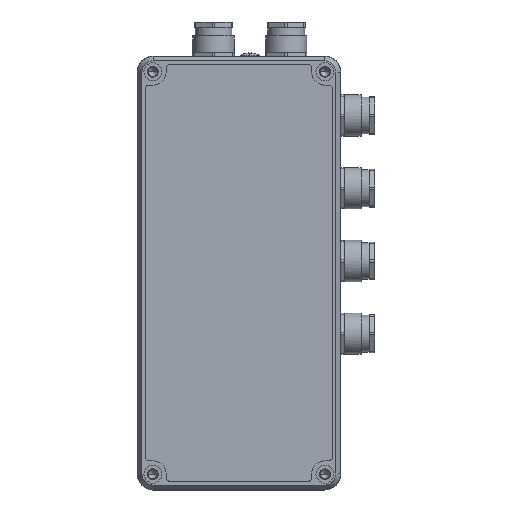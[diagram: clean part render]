
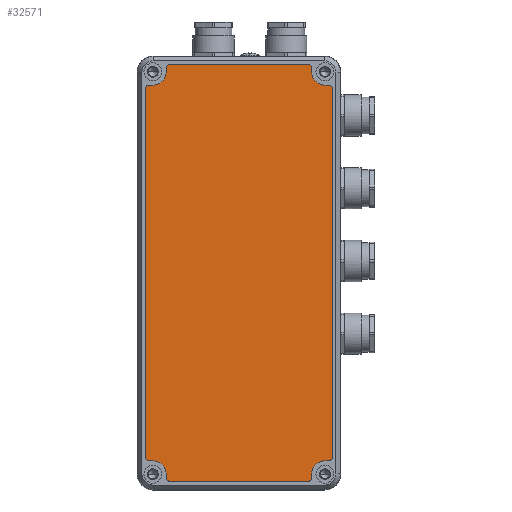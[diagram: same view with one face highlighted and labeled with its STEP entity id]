
A CAD part, top view. The second image highlights one B-rep face of the part: STEP entity #32571.
In plain terms, the highlighted free-form (B-spline) face has degree [1, 1] with [2, 2] control points.
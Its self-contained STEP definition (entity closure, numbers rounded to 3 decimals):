
#10126=DIRECTION('',(0.,1.,0.));
#10127=VECTOR('',#10126,152.);
#10128=CARTESIAN_POINT('',(-38.5,-76.,15.4));
#10129=LINE('',#10128,#10127);
#10130=CARTESIAN_POINT('',(-37.,76.,15.4));
#10131=DIRECTION('',(0.,0.,-1.));
#10132=DIRECTION('',(-1.,0.,0.));
#10133=AXIS2_PLACEMENT_3D('',#10130,#10131,#10132);
#10135=DIRECTION('',(1.,0.,0.));
#10136=VECTOR('',#10135,1.5);
#10137=CARTESIAN_POINT('',(-37.,77.5,15.4));
#10138=LINE('',#10137,#10136);
#10139=CARTESIAN_POINT('',(-35.5,83.,15.4));
#10140=DIRECTION('',(0.,0.,1.));
#10141=DIRECTION('',(0.,-1.,0.));
#10142=AXIS2_PLACEMENT_3D('',#10139,#10140,#10141);
#10144=DIRECTION('',(0.,1.,0.));
#10145=VECTOR('',#10144,1.5);
#10146=CARTESIAN_POINT('',(-30.,83.,15.4));
#10147=LINE('',#10146,#10145);
#10148=CARTESIAN_POINT('',(-28.5,84.5,15.4));
#10149=DIRECTION('',(0.,0.,-1.));
#10150=DIRECTION('',(-1.,0.,0.));
#10151=AXIS2_PLACEMENT_3D('',#10148,#10149,#10150);
#10153=DIRECTION('',(1.,0.,0.));
#10154=VECTOR('',#10153,57.);
#10155=CARTESIAN_POINT('',(-28.5,86.,15.4));
#10156=LINE('',#10155,#10154);
#10157=CARTESIAN_POINT('',(28.5,84.5,15.4));
#10158=DIRECTION('',(0.,0.,-1.));
#10159=DIRECTION('',(0.,1.,0.));
#10160=AXIS2_PLACEMENT_3D('',#10157,#10158,#10159);
#10162=DIRECTION('',(0.,-1.,0.));
#10163=VECTOR('',#10162,1.5);
#10164=CARTESIAN_POINT('',(30.,84.5,15.4));
#10165=LINE('',#10164,#10163);
#10166=CARTESIAN_POINT('',(35.5,83.,15.4));
#10167=DIRECTION('',(0.,0.,1.));
#10168=DIRECTION('',(-1.,0.,0.));
#10169=AXIS2_PLACEMENT_3D('',#10166,#10167,#10168);
#10171=DIRECTION('',(1.,0.,0.));
#10172=VECTOR('',#10171,1.5);
#10173=CARTESIAN_POINT('',(35.5,77.5,15.4));
#10174=LINE('',#10173,#10172);
#10175=CARTESIAN_POINT('',(37.,76.,15.4));
#10176=DIRECTION('',(0.,0.,-1.));
#10177=DIRECTION('',(0.,1.,0.));
#10178=AXIS2_PLACEMENT_3D('',#10175,#10176,#10177);
#10180=DIRECTION('',(0.,-1.,0.));
#10181=VECTOR('',#10180,152.);
#10182=CARTESIAN_POINT('',(38.5,76.,15.4));
#10183=LINE('',#10182,#10181);
#10184=CARTESIAN_POINT('',(37.,-76.,15.4));
#10185=DIRECTION('',(0.,0.,-1.));
#10186=DIRECTION('',(1.,0.,0.));
#10187=AXIS2_PLACEMENT_3D('',#10184,#10185,#10186);
#10189=DIRECTION('',(-1.,0.,0.));
#10190=VECTOR('',#10189,1.5);
#10191=CARTESIAN_POINT('',(37.,-77.5,15.4));
#10192=LINE('',#10191,#10190);
#10193=CARTESIAN_POINT('',(35.5,-83.,15.4));
#10194=DIRECTION('',(0.,0.,1.));
#10195=DIRECTION('',(0.,1.,0.));
#10196=AXIS2_PLACEMENT_3D('',#10193,#10194,#10195);
#10198=DIRECTION('',(0.,-1.,0.));
#10199=VECTOR('',#10198,1.5);
#10200=CARTESIAN_POINT('',(30.,-83.,15.4));
#10201=LINE('',#10200,#10199);
#10202=CARTESIAN_POINT('',(28.5,-84.5,15.4));
#10203=DIRECTION('',(0.,0.,-1.));
#10204=DIRECTION('',(1.,0.,0.));
#10205=AXIS2_PLACEMENT_3D('',#10202,#10203,#10204);
#10207=DIRECTION('',(-1.,0.,0.));
#10208=VECTOR('',#10207,57.);
#10209=CARTESIAN_POINT('',(28.5,-86.,15.4));
#10210=LINE('',#10209,#10208);
#10211=CARTESIAN_POINT('',(-28.5,-84.5,15.4));
#10212=DIRECTION('',(0.,0.,-1.));
#10213=DIRECTION('',(0.,-1.,0.));
#10214=AXIS2_PLACEMENT_3D('',#10211,#10212,#10213);
#10216=DIRECTION('',(0.,1.,0.));
#10217=VECTOR('',#10216,1.5);
#10218=CARTESIAN_POINT('',(-30.,-84.5,15.4));
#10219=LINE('',#10218,#10217);
#10220=CARTESIAN_POINT('',(-35.5,-83.,15.4));
#10221=DIRECTION('',(0.,0.,1.));
#10222=DIRECTION('',(1.,0.,0.));
#10223=AXIS2_PLACEMENT_3D('',#10220,#10221,#10222);
#10225=DIRECTION('',(-1.,0.,0.));
#10226=VECTOR('',#10225,1.5);
#10227=CARTESIAN_POINT('',(-35.5,-77.5,15.4));
#10228=LINE('',#10227,#10226);
#10229=CARTESIAN_POINT('',(-37.,-76.,15.4));
#10230=DIRECTION('',(0.,0.,-1.));
#10231=DIRECTION('',(0.,-1.,0.));
#10232=AXIS2_PLACEMENT_3D('',#10229,#10230,#10231);
#12729=CARTESIAN_POINT('',(-38.5,-76.,15.4));
#12730=CARTESIAN_POINT('',(-38.5,76.,15.4));
#12731=VERTEX_POINT('',#12729);
#12732=VERTEX_POINT('',#12730);
#12733=CARTESIAN_POINT('',(-37.,77.5,15.4));
#12734=VERTEX_POINT('',#12733);
#12735=CARTESIAN_POINT('',(-35.5,77.5,15.4));
#12736=VERTEX_POINT('',#12735);
#12737=CARTESIAN_POINT('',(-30.,83.,15.4));
#12738=VERTEX_POINT('',#12737);
#12739=CARTESIAN_POINT('',(-30.,84.5,15.4));
#12740=VERTEX_POINT('',#12739);
#12741=CARTESIAN_POINT('',(-28.5,86.,15.4));
#12742=VERTEX_POINT('',#12741);
#12743=CARTESIAN_POINT('',(28.5,86.,15.4));
#12744=VERTEX_POINT('',#12743);
#12745=CARTESIAN_POINT('',(30.,84.5,15.4));
#12746=VERTEX_POINT('',#12745);
#12747=CARTESIAN_POINT('',(30.,83.,15.4));
#12748=VERTEX_POINT('',#12747);
#12749=CARTESIAN_POINT('',(35.5,77.5,15.4));
#12750=VERTEX_POINT('',#12749);
#12751=CARTESIAN_POINT('',(37.,77.5,15.4));
#12752=VERTEX_POINT('',#12751);
#12753=CARTESIAN_POINT('',(38.5,76.,15.4));
#12754=VERTEX_POINT('',#12753);
#12755=CARTESIAN_POINT('',(38.5,-76.,15.4));
#12756=VERTEX_POINT('',#12755);
#12757=CARTESIAN_POINT('',(37.,-77.5,15.4));
#12758=VERTEX_POINT('',#12757);
#12759=CARTESIAN_POINT('',(35.5,-77.5,15.4));
#12760=VERTEX_POINT('',#12759);
#12761=CARTESIAN_POINT('',(30.,-83.,15.4));
#12762=VERTEX_POINT('',#12761);
#12763=CARTESIAN_POINT('',(30.,-84.5,15.4));
#12764=VERTEX_POINT('',#12763);
#12765=CARTESIAN_POINT('',(28.5,-86.,15.4));
#12766=VERTEX_POINT('',#12765);
#12767=CARTESIAN_POINT('',(-28.5,-86.,15.4));
#12768=VERTEX_POINT('',#12767);
#12769=CARTESIAN_POINT('',(-30.,-84.5,15.4));
#12770=VERTEX_POINT('',#12769);
#12771=CARTESIAN_POINT('',(-30.,-83.,15.4));
#12772=VERTEX_POINT('',#12771);
#12773=CARTESIAN_POINT('',(-35.5,-77.5,15.4));
#12774=VERTEX_POINT('',#12773);
#12775=CARTESIAN_POINT('',(-37.,-77.5,15.4));
#12776=VERTEX_POINT('',#12775);
#32540=CARTESIAN_POINT('',(-40.04,-89.44,15.4));
#32541=CARTESIAN_POINT('',(40.04,-89.44,15.4));
#32542=CARTESIAN_POINT('',(-40.04,89.44,15.4));
#32543=CARTESIAN_POINT('',(40.04,89.44,15.4));
#32544=B_SPLINE_SURFACE_WITH_KNOTS('',1,1,((#32540,#32541),(#32542,#32543)),
.UNSPECIFIED.,.F.,.F.,.F.,(2,2),(2,2),(-89.44,89.44),(-40.04,40.04),
.UNSPECIFIED.);
#32545=ORIENTED_EDGE('',*,*,#31940,.T.);
#32546=ORIENTED_EDGE('',*,*,#31970,.T.);
#32547=ORIENTED_EDGE('',*,*,#31991,.T.);
#32548=ORIENTED_EDGE('',*,*,#32022,.T.);
#32549=ORIENTED_EDGE('',*,*,#32043,.T.);
#32550=ORIENTED_EDGE('',*,*,#32072,.T.);
#32551=ORIENTED_EDGE('',*,*,#32093,.T.);
#32552=ORIENTED_EDGE('',*,*,#32122,.T.);
#32553=ORIENTED_EDGE('',*,*,#32143,.T.);
#32554=ORIENTED_EDGE('',*,*,#32174,.T.);
#32555=ORIENTED_EDGE('',*,*,#32195,.T.);
#32556=ORIENTED_EDGE('',*,*,#32224,.T.);
#32557=ORIENTED_EDGE('',*,*,#32245,.T.);
#32558=ORIENTED_EDGE('',*,*,#32274,.T.);
#32559=ORIENTED_EDGE('',*,*,#32295,.T.);
#32560=ORIENTED_EDGE('',*,*,#32326,.T.);
#32561=ORIENTED_EDGE('',*,*,#32347,.T.);
#32562=ORIENTED_EDGE('',*,*,#32376,.T.);
#32563=ORIENTED_EDGE('',*,*,#32397,.T.);
#32564=ORIENTED_EDGE('',*,*,#32426,.T.);
#32565=ORIENTED_EDGE('',*,*,#32447,.T.);
#32566=ORIENTED_EDGE('',*,*,#32478,.T.);
#32567=ORIENTED_EDGE('',*,*,#32499,.T.);
#32568=ORIENTED_EDGE('',*,*,#32527,.T.);
#32569=EDGE_LOOP('',(#32545,#32546,#32547,#32548,#32549,#32550,#32551,#32552,
#32553,#32554,#32555,#32556,#32557,#32558,#32559,#32560,#32561,#32562,#32563,
#32564,#32565,#32566,#32567,#32568));
#32570=FACE_OUTER_BOUND('',#32569,.F.);
#32571=ADVANCED_FACE('',(#32570),#32544,.F.);
#10134=CIRCLE('',#10133,1.5);
#10143=CIRCLE('',#10142,5.5);
#10152=CIRCLE('',#10151,1.5);
#10161=CIRCLE('',#10160,1.5);
#10170=CIRCLE('',#10169,5.5);
#10179=CIRCLE('',#10178,1.5);
#10188=CIRCLE('',#10187,1.5);
#10197=CIRCLE('',#10196,5.5);
#10206=CIRCLE('',#10205,1.5);
#10215=CIRCLE('',#10214,1.5);
#10224=CIRCLE('',#10223,5.5);
#10233=CIRCLE('',#10232,1.5);
#31940=EDGE_CURVE('',#12731,#12732,#10129,.T.);
#31970=EDGE_CURVE('',#12732,#12734,#10134,.T.);
#31991=EDGE_CURVE('',#12734,#12736,#10138,.T.);
#32022=EDGE_CURVE('',#12736,#12738,#10143,.T.);
#32043=EDGE_CURVE('',#12738,#12740,#10147,.T.);
#32072=EDGE_CURVE('',#12740,#12742,#10152,.T.);
#32093=EDGE_CURVE('',#12742,#12744,#10156,.T.);
#32122=EDGE_CURVE('',#12744,#12746,#10161,.T.);
#32143=EDGE_CURVE('',#12746,#12748,#10165,.T.);
#32174=EDGE_CURVE('',#12748,#12750,#10170,.T.);
#32195=EDGE_CURVE('',#12750,#12752,#10174,.T.);
#32224=EDGE_CURVE('',#12752,#12754,#10179,.T.);
#32245=EDGE_CURVE('',#12754,#12756,#10183,.T.);
#32274=EDGE_CURVE('',#12756,#12758,#10188,.T.);
#32295=EDGE_CURVE('',#12758,#12760,#10192,.T.);
#32326=EDGE_CURVE('',#12760,#12762,#10197,.T.);
#32347=EDGE_CURVE('',#12762,#12764,#10201,.T.);
#32376=EDGE_CURVE('',#12764,#12766,#10206,.T.);
#32397=EDGE_CURVE('',#12766,#12768,#10210,.T.);
#32426=EDGE_CURVE('',#12768,#12770,#10215,.T.);
#32447=EDGE_CURVE('',#12770,#12772,#10219,.T.);
#32478=EDGE_CURVE('',#12772,#12774,#10224,.T.);
#32499=EDGE_CURVE('',#12774,#12776,#10228,.T.);
#32527=EDGE_CURVE('',#12776,#12731,#10233,.T.);
